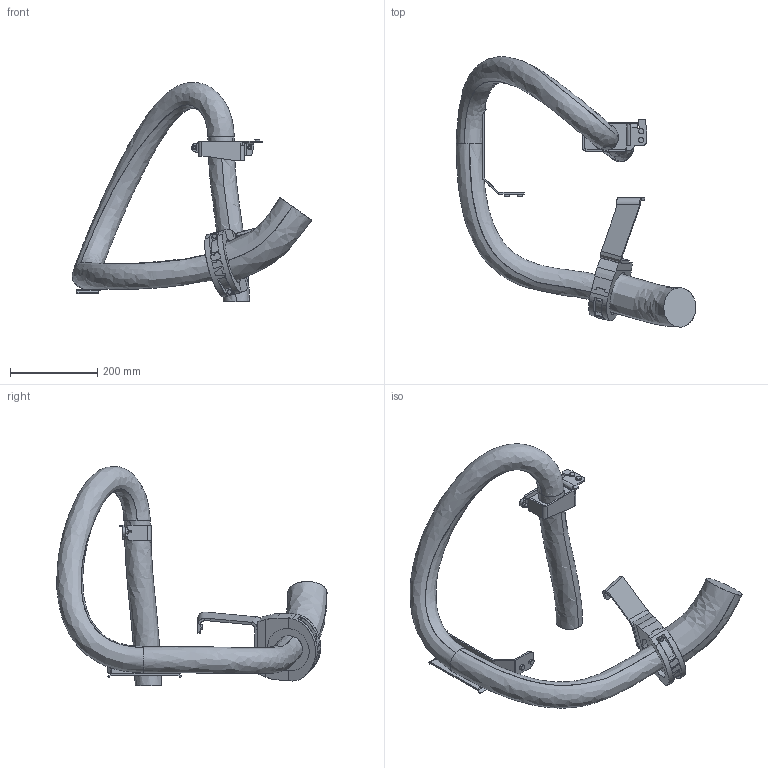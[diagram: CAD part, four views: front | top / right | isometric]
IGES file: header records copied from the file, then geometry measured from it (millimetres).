
Start section: SolidWorks IGES file using analytic representation for surfaces
Global section: file name: C:\Users\SEALDUN\OneDrive - ABB\Documents\R&D Robotics\Work Items\WI 632927\IGES\IRB5710-LID-SW_70kg-270_OC_02_IGES_J\IRB5710-LID-SW_70kg-270_OC_00_LINK01_CABLE.igs; native system: SolidWorks 2024; preprocessor: SolidWorks 2024; author: SEALDUN; date: 250707.155058; units: millimetre
Bounding box: 548.66 x 618.67 x 501.59 mm (x, y, z)
Surface area: 551598.9 mm2 (no closed solid volume)
Topology: 0 solids, 0 shells, 418 faces, 5955 edges, 5895 vertices
Faces by surface type: bspline 223, revolution 195
